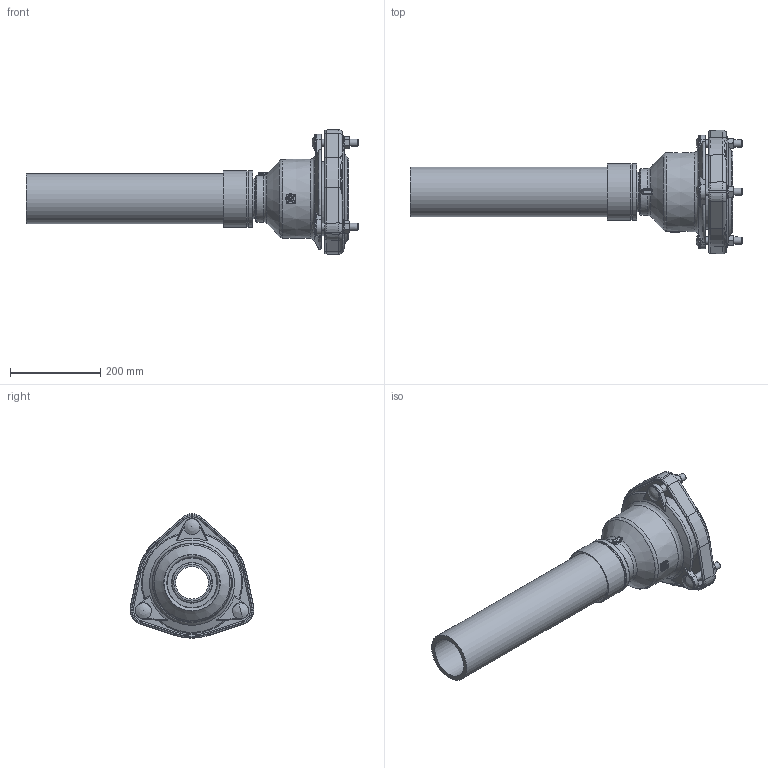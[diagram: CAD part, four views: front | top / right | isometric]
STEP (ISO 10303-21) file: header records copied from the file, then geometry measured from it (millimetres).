
FILE_DESCRIPTION((''),'2;1');
FILE_NAME('P:\Fastrack\54361_VIKING JOHNSON 3D\ULTRAGRIP\Component Parts\Components Built up\Pecatadaptor\125MMx110SDR11-UltraGrip-Pecat-Adaptor.stp','2012-05-09T10:18:05',('dcole'),(''),'Autodesk Inventor 2008','Autodesk Inventor 2008','');
FILE_SCHEMA(('AUTOMOTIVE_DESIGN { 1 0 10303 214 1 1 1 1 }'));
Length unit declared in the file: millimetre
Products named in the file (1): 125MMx110SDR11-UltraGrip-Pecat-Adaptor
Bounding box: 734.42 x 274.22 x 275.21 mm (x, y, z)
Surface area: 782321.8 mm2 (no closed solid volume)
Topology: 0 solids, 1 shells, 480 faces, 1213 edges, 762 vertices
Faces by surface type: plane 151, cylinder 138, cone 81, torus 61, bspline 49
Full cylindrical faces by diameter (mm): 13 x1, 15.7 x6, 16 x3, 18.233 x3, 30 x3, 35.2 x3, 72 x1, 87.25 x1, 90 x1, 110 x2, 112 x2, 125 x3, 156 x1, 157 x1, 158 x1, 164 x1
Entity records: 21631 total; most frequent: CARTESIAN_POINT 10396, DIRECTION 2213, ORIENTED_EDGE 2168, EDGE_CURVE 1084, AXIS2_PLACEMENT_3D 916, VERTEX_POINT 714, EDGE_LOOP 596, STYLED_ITEM 479
